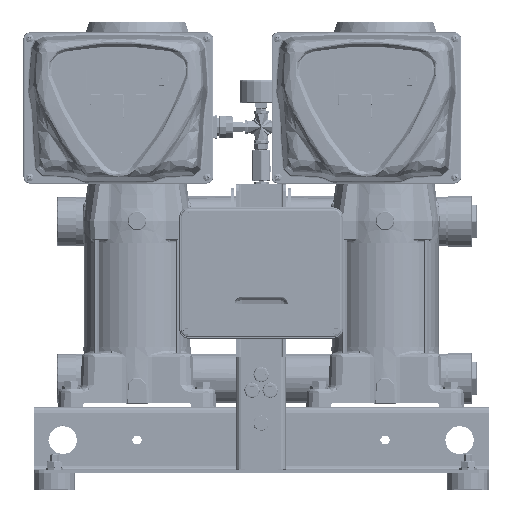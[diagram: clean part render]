
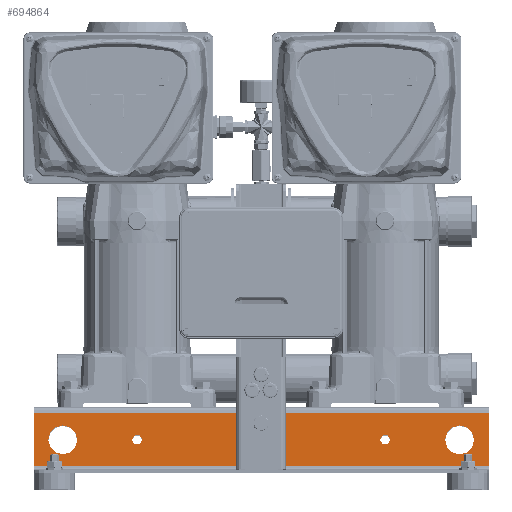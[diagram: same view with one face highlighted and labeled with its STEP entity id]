
A CAD part, top view. The second image highlights one B-rep face of the part: STEP entity #694864.
In plain terms, the highlighted planar face has unit normal (0, 0, 1) as drawn and (0, 0, -1) by its records, which use the part's own axes.
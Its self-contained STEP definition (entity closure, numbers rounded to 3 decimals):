
#688595=DIRECTION('',(1.,0.,0.));
#688596=VECTOR('',#688595,550.);
#688597=CARTESIAN_POINT('',(-275.,-8.,-150.));
#688598=LINE('',#688597,#688596);
#690825=DIRECTION('',(0.,1.,0.));
#690826=VECTOR('',#690825,64.);
#690827=CARTESIAN_POINT('',(-275.,-72.,-150.));
#690828=LINE('',#690827,#690826);
#690846=DIRECTION('',(1.,0.,0.));
#690847=VECTOR('',#690846,550.);
#690848=CARTESIAN_POINT('',(-275.,-72.,-150.));
#690849=LINE('',#690848,#690847);
#690876=DIRECTION('',(0.,1.,0.));
#690877=VECTOR('',#690876,26.);
#690878=CARTESIAN_POINT('',(-26.7,-40.,-150.));
#690879=LINE('',#690878,#690877);
#690883=DIRECTION('',(1.,0.,0.));
#690884=VECTOR('',#690883,3.6);
#690885=CARTESIAN_POINT('',(-30.3,-40.,-150.));
#690886=LINE('',#690885,#690884);
#690890=DIRECTION('',(0.,-1.,0.));
#690891=VECTOR('',#690890,26.);
#690892=CARTESIAN_POINT('',(-30.3,-14.,-150.));
#690893=LINE('',#690892,#690891);
#690897=DIRECTION('',(-1.,0.,0.));
#690898=VECTOR('',#690897,3.6);
#690899=CARTESIAN_POINT('',(-26.7,-14.,-150.));
#690900=LINE('',#690899,#690898);
#690904=DIRECTION('',(0.,1.,0.));
#690905=VECTOR('',#690904,26.);
#690906=CARTESIAN_POINT('',(30.3,-40.,-150.));
#690907=LINE('',#690906,#690905);
#690911=DIRECTION('',(1.,0.,0.));
#690912=VECTOR('',#690911,3.6);
#690913=CARTESIAN_POINT('',(26.7,-40.,-150.));
#690914=LINE('',#690913,#690912);
#690918=DIRECTION('',(0.,-1.,0.));
#690919=VECTOR('',#690918,26.);
#690920=CARTESIAN_POINT('',(26.7,-14.,-150.));
#690921=LINE('',#690920,#690919);
#690925=DIRECTION('',(-1.,0.,0.));
#690926=VECTOR('',#690925,3.6);
#690927=CARTESIAN_POINT('',(30.3,-14.,-150.));
#690928=LINE('',#690927,#690926);
#690932=CARTESIAN_POINT('',(0.,-20.,-150.));
#690933=DIRECTION('',(0.,0.,-1.));
#690934=DIRECTION('',(1.,0.,0.));
#690935=AXIS2_PLACEMENT_3D('',#690932,#690933,#690934);
#690940=CARTESIAN_POINT('',(0.,-20.,-150.));
#690941=DIRECTION('',(0.,0.,-1.));
#690942=DIRECTION('',(-1.,0.,0.));
#690943=AXIS2_PLACEMENT_3D('',#690940,#690941,#690942);
#690948=CARTESIAN_POINT('',(-240.,-40.,-150.));
#690949=DIRECTION('',(0.,0.,1.));
#690950=DIRECTION('',(-1.,0.,0.));
#690951=AXIS2_PLACEMENT_3D('',#690948,#690949,#690950);
#690956=CARTESIAN_POINT('',(-240.,-40.,-150.));
#690957=DIRECTION('',(0.,0.,1.));
#690958=DIRECTION('',(1.,0.,0.));
#690959=AXIS2_PLACEMENT_3D('',#690956,#690957,#690958);
#690964=CARTESIAN_POINT('',(240.,-40.,-150.));
#690965=DIRECTION('',(0.,0.,1.));
#690966=DIRECTION('',(-1.,0.,0.));
#690967=AXIS2_PLACEMENT_3D('',#690964,#690965,#690966);
#690972=CARTESIAN_POINT('',(240.,-40.,-150.));
#690973=DIRECTION('',(0.,0.,1.));
#690974=DIRECTION('',(1.,0.,0.));
#690975=AXIS2_PLACEMENT_3D('',#690972,#690973,#690974);
#690980=CARTESIAN_POINT('',(-150.,-40.,-150.));
#690981=DIRECTION('',(0.,0.,1.));
#690982=DIRECTION('',(1.,0.,0.));
#690983=AXIS2_PLACEMENT_3D('',#690980,#690981,#690982);
#690988=CARTESIAN_POINT('',(-150.,-40.,-150.));
#690989=DIRECTION('',(0.,0.,1.));
#690990=DIRECTION('',(-1.,0.,0.));
#690991=AXIS2_PLACEMENT_3D('',#690988,#690989,#690990);
#690996=CARTESIAN_POINT('',(150.,-40.,-150.));
#690997=DIRECTION('',(0.,0.,-1.));
#690998=DIRECTION('',(-1.,0.,0.));
#690999=AXIS2_PLACEMENT_3D('',#690996,#690997,#690998);
#691004=CARTESIAN_POINT('',(150.,-40.,-150.));
#691005=DIRECTION('',(0.,0.,-1.));
#691006=DIRECTION('',(1.,0.,0.));
#691007=AXIS2_PLACEMENT_3D('',#691004,#691005,#691006);
#691026=DIRECTION('',(0.,1.,0.));
#691027=VECTOR('',#691026,64.);
#691028=CARTESIAN_POINT('',(275.,-72.,-150.));
#691029=LINE('',#691028,#691027);
#692591=CARTESIAN_POINT('',(-275.,-72.,-150.));
#692592=CARTESIAN_POINT('',(-275.,-8.,-150.));
#692593=VERTEX_POINT('',#692591);
#692594=VERTEX_POINT('',#692592);
#692595=CARTESIAN_POINT('',(275.,-72.,-150.));
#692596=CARTESIAN_POINT('',(275.,-8.,-150.));
#692597=VERTEX_POINT('',#692595);
#692598=VERTEX_POINT('',#692596);
#692951=CARTESIAN_POINT('',(-26.7,-40.,-150.));
#692952=CARTESIAN_POINT('',(-26.7,-14.,-150.));
#692953=VERTEX_POINT('',#692951);
#692954=VERTEX_POINT('',#692952);
#692955=CARTESIAN_POINT('',(-30.3,-14.,-150.));
#692956=VERTEX_POINT('',#692955);
#692957=CARTESIAN_POINT('',(-30.3,-40.,-150.));
#692958=VERTEX_POINT('',#692957);
#692959=CARTESIAN_POINT('',(30.3,-40.,-150.));
#692960=CARTESIAN_POINT('',(30.3,-14.,-150.));
#692961=VERTEX_POINT('',#692959);
#692962=VERTEX_POINT('',#692960);
#692963=CARTESIAN_POINT('',(26.7,-14.,-150.));
#692964=VERTEX_POINT('',#692963);
#692965=CARTESIAN_POINT('',(26.7,-40.,-150.));
#692966=VERTEX_POINT('',#692965);
#692983=CARTESIAN_POINT('',(6.25,-20.,-150.));
#692984=CARTESIAN_POINT('',(-6.25,-20.,-150.));
#692985=VERTEX_POINT('',#692983);
#692986=VERTEX_POINT('',#692984);
#693007=CARTESIAN_POINT('',(-257.5,-40.,-150.));
#693008=CARTESIAN_POINT('',(-222.5,-40.,-150.));
#693009=VERTEX_POINT('',#693007);
#693010=VERTEX_POINT('',#693008);
#693011=CARTESIAN_POINT('',(222.5,-40.,-150.));
#693012=CARTESIAN_POINT('',(257.5,-40.,-150.));
#693013=VERTEX_POINT('',#693011);
#693014=VERTEX_POINT('',#693012);
#693107=CARTESIAN_POINT('',(-143.75,-40.,-150.));
#693108=CARTESIAN_POINT('',(-156.25,-40.,-150.));
#693109=VERTEX_POINT('',#693107);
#693110=VERTEX_POINT('',#693108);
#693119=CARTESIAN_POINT('',(143.75,-40.,-150.));
#693121=VERTEX_POINT('',#693119);
#693127=CARTESIAN_POINT('',(156.25,-40.,-150.));
#693129=VERTEX_POINT('',#693127);
#694802=CARTESIAN_POINT('',(-275.,-76.,-150.));
#694803=DIRECTION('',(0.,0.,-1.));
#694804=DIRECTION('',(0.,1.,0.));
#694805=AXIS2_PLACEMENT_3D('',#694802,#694803,#694804);
#694806=PLANE('',#694805);
#694807=ORIENTED_EDGE('',*,*,#694755,.F.);
#694808=ORIENTED_EDGE('',*,*,#694792,.T.);
#694810=ORIENTED_EDGE('',*,*,#694809,.T.);
#694811=ORIENTED_EDGE('',*,*,#693863,.F.);
#694812=EDGE_LOOP('',(#694807,#694808,#694810,#694811));
#694813=FACE_OUTER_BOUND('',#694812,.F.);
#694815=ORIENTED_EDGE('',*,*,#694814,.F.);
#694817=ORIENTED_EDGE('',*,*,#694816,.F.);
#694819=ORIENTED_EDGE('',*,*,#694818,.F.);
#694821=ORIENTED_EDGE('',*,*,#694820,.F.);
#694822=EDGE_LOOP('',(#694815,#694817,#694819,#694821));
#694823=FACE_BOUND('',#694822,.F.);
#694825=ORIENTED_EDGE('',*,*,#694824,.F.);
#694827=ORIENTED_EDGE('',*,*,#694826,.F.);
#694829=ORIENTED_EDGE('',*,*,#694828,.F.);
#694831=ORIENTED_EDGE('',*,*,#694830,.F.);
#694832=EDGE_LOOP('',(#694825,#694827,#694829,#694831));
#694833=FACE_BOUND('',#694832,.F.);
#694835=ORIENTED_EDGE('',*,*,#694834,.T.);
#694837=ORIENTED_EDGE('',*,*,#694836,.T.);
#694838=EDGE_LOOP('',(#694835,#694837));
#694839=FACE_BOUND('',#694838,.F.);
#694841=ORIENTED_EDGE('',*,*,#694840,.F.);
#694843=ORIENTED_EDGE('',*,*,#694842,.F.);
#694844=EDGE_LOOP('',(#694841,#694843));
#694845=FACE_BOUND('',#694844,.F.);
#694847=ORIENTED_EDGE('',*,*,#694846,.F.);
#694849=ORIENTED_EDGE('',*,*,#694848,.F.);
#694850=EDGE_LOOP('',(#694847,#694849));
#694851=FACE_BOUND('',#694850,.F.);
#694853=ORIENTED_EDGE('',*,*,#694852,.F.);
#694855=ORIENTED_EDGE('',*,*,#694854,.F.);
#694856=EDGE_LOOP('',(#694853,#694855));
#694857=FACE_BOUND('',#694856,.F.);
#694859=ORIENTED_EDGE('',*,*,#694858,.T.);
#694861=ORIENTED_EDGE('',*,*,#694860,.T.);
#694862=EDGE_LOOP('',(#694859,#694861));
#694863=FACE_BOUND('',#694862,.F.);
#690936=CIRCLE('',#690935,6.25);
#690944=CIRCLE('',#690943,6.25);
#690952=CIRCLE('',#690951,17.5);
#690960=CIRCLE('',#690959,17.5);
#690968=CIRCLE('',#690967,17.5);
#690976=CIRCLE('',#690975,17.5);
#690984=CIRCLE('',#690983,6.25);
#690992=CIRCLE('',#690991,6.25);
#691000=CIRCLE('',#690999,6.25);
#691008=CIRCLE('',#691007,6.25);
#693863=EDGE_CURVE('',#692594,#692598,#688598,.T.);
#694755=EDGE_CURVE('',#692593,#692594,#690828,.T.);
#694792=EDGE_CURVE('',#692593,#692597,#690849,.T.);
#694809=EDGE_CURVE('',#692597,#692598,#691029,.T.);
#694814=EDGE_CURVE('',#692953,#692954,#690879,.T.);
#694816=EDGE_CURVE('',#692958,#692953,#690886,.T.);
#694818=EDGE_CURVE('',#692956,#692958,#690893,.T.);
#694820=EDGE_CURVE('',#692954,#692956,#690900,.T.);
#694824=EDGE_CURVE('',#692961,#692962,#690907,.T.);
#694826=EDGE_CURVE('',#692966,#692961,#690914,.T.);
#694828=EDGE_CURVE('',#692964,#692966,#690921,.T.);
#694830=EDGE_CURVE('',#692962,#692964,#690928,.T.);
#694834=EDGE_CURVE('',#692985,#692986,#690936,.T.);
#694836=EDGE_CURVE('',#692986,#692985,#690944,.T.);
#694840=EDGE_CURVE('',#693009,#693010,#690952,.T.);
#694842=EDGE_CURVE('',#693010,#693009,#690960,.T.);
#694846=EDGE_CURVE('',#693013,#693014,#690968,.T.);
#694848=EDGE_CURVE('',#693014,#693013,#690976,.T.);
#694852=EDGE_CURVE('',#693109,#693110,#690984,.T.);
#694854=EDGE_CURVE('',#693110,#693109,#690992,.T.);
#694858=EDGE_CURVE('',#693121,#693129,#691000,.T.);
#694860=EDGE_CURVE('',#693129,#693121,#691008,.T.);
#694864=ADVANCED_FACE('',(#694813,#694823,#694833,#694839,#694845,#694851,
#694857,#694863),#694806,.T.);
